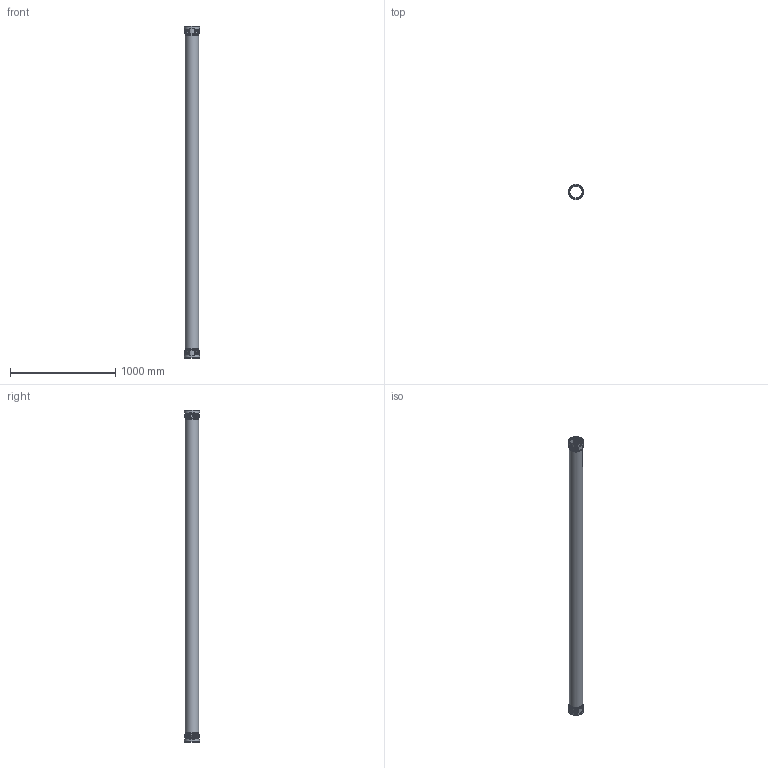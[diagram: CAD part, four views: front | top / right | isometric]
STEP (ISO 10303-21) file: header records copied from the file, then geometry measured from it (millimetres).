
FILE_DESCRIPTION(/* description */ (''),/* implementation_level */ '2;1');
FILE_NAME(/* name */ 'Z:\Geberit\Export\NewStep\Rohr2Muffen_Iassembly\stp\390614.stp',/* time_stamp */ '2014-04-03T17:51:37+02:00',/* author */ ('ML'),/* organization */ (''),/* preprocessor_version */ 'ST-DEVELOPER v15.2',/* originating_system */ 'Autodesk Inventor 2014',/* authorisation */ '');
FILE_SCHEMA (('AUTOMOTIVE_DESIGN { 1 0 10303 214 3 1 1 }'));
Length unit declared in the file: millimetre
Products named in the file (3): 861658; 861586ohne; 390614
Bounding box: 144.95 x 144.95 x 3147.8 mm (x, y, z)
Volume: 5130567.8 mm3; surface area: 2456432.9 mm2
Topology: 3 solids, 3 shells, 88 faces, 198 edges, 136 vertices
Faces by surface type: torus 48, cylinder 20, plane 18, cone 2
Full cylindrical faces by diameter (mm): 116.8 x3, 125.2 x3, 126.2 x4, 130.4 x2, 134.6 x4, 136.55 x2, 144.95 x2
Entity records: 1990 total; most frequent: CARTESIAN_POINT 960, DIRECTION 180, ORIENTED_EDGE 172, AXIS2_PLACEMENT_3D 90, EDGE_CURVE 86, EDGE_LOOP 76, VERTEX_POINT 70, B_SPLINE_CURVE_WITH_KNOTS 48
